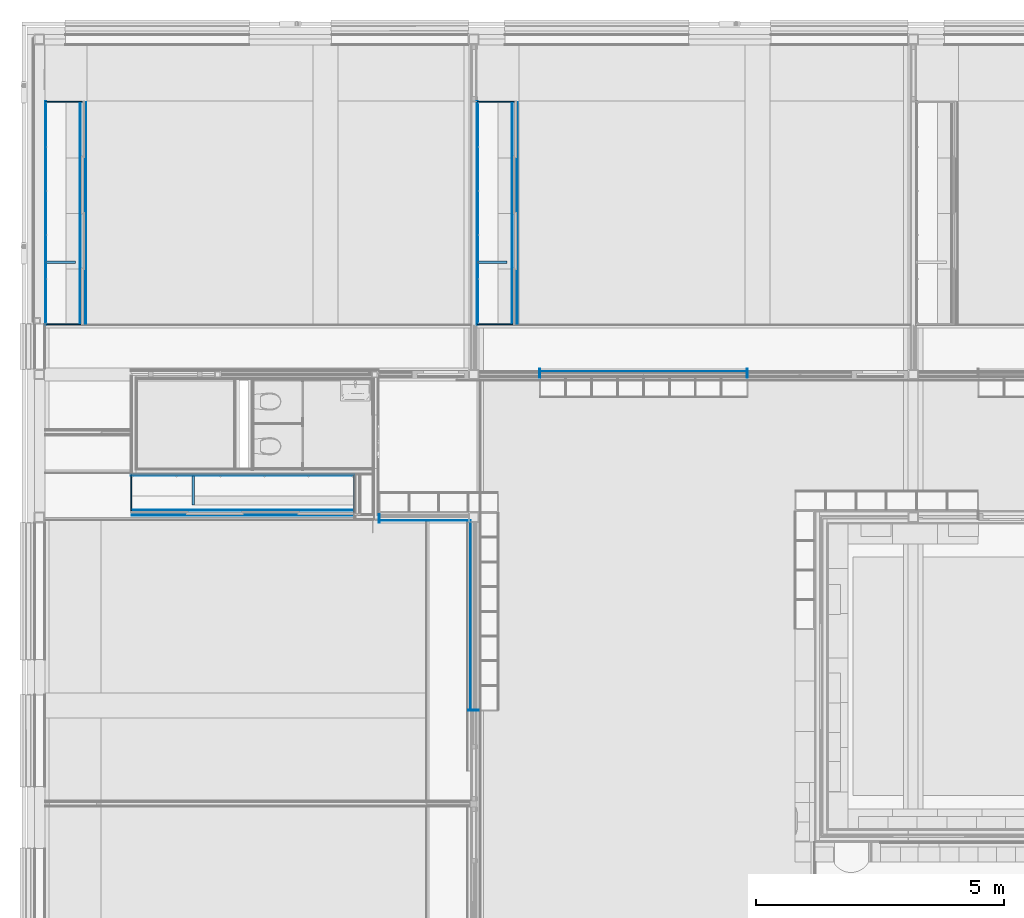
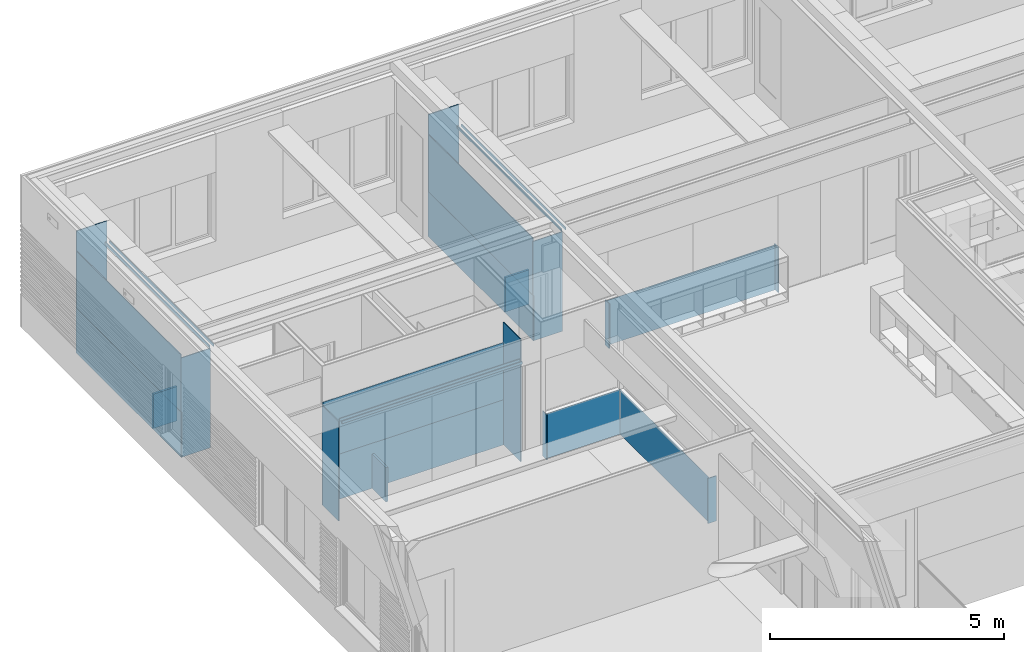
# One storey, part 42 of 137: 28 walls.
"""IFC2X3 building model written with IfcOpenShell, lengths in millimetres."""

from ifc_helpers import new_model, entity, si_unit, converted_unit, derived_unit, money_unit, direction, frame, origin_with_axes, place, context, subcontext, project, spatial, faceted_brep, material, type_object, element, save


model = new_model("IFC2X3")

# Units and contexts
model_context = context("Model", 3, precision=0.01, world=origin_with_axes(), true_north=direction((0.0, 1.0)))
body_context = subcontext(model_context, "Body", "Model", "MODEL_VIEW")
ifc_project = project(units=[si_unit("LENGTHUNIT", "METRE", prefix="MILLI"), si_unit("AREAUNIT", "SQUARE_METRE"), si_unit("VOLUMEUNIT", "CUBIC_METRE"), converted_unit("PLANEANGLEUNIT", "DEGREE", entity("IfcPlaneAngleMeasure", 0.0174532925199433), si_unit("PLANEANGLEUNIT", "RADIAN"), dimensions=[0, 0, 0, 0, 0, 0, 0]), money_unit("EUR"), converted_unit("TIMEUNIT", "Year", entity("IfcTimeMeasure", 31556926.0), si_unit("TIMEUNIT", "SECOND"), dimensions=[0, 0, 1, 0, 0, 0, 0]), si_unit("MASSUNIT", "GRAM", prefix="KILO"), si_unit("THERMODYNAMICTEMPERATUREUNIT", "DEGREE_CELSIUS"), si_unit("LUMINOUSINTENSITYUNIT", "LUMEN"), si_unit("ENERGYUNIT", "JOULE", prefix="MEGA"), derived_unit("THERMALCONDUCTANCEUNIT", [(si_unit("POWERUNIT", "WATT"), 1), (si_unit("LENGTHUNIT", "METRE"), -1), (si_unit("THERMODYNAMICTEMPERATUREUNIT", "KELVIN"), -1)]), derived_unit("SPECIFICHEATCAPACITYUNIT", [(si_unit("ENERGYUNIT", "JOULE"), 1), (si_unit("MASSUNIT", "GRAM", prefix="KILO"), -1), (si_unit("THERMODYNAMICTEMPERATUREUNIT", "KELVIN"), -1)]), derived_unit("MASSDENSITYUNIT", [(si_unit("MASSUNIT", "GRAM", prefix="KILO"), 1), (si_unit("VOLUMEUNIT", "CUBIC_METRE"), -1)])], contexts=[model_context])

# Site, building, storey
site_placement = place(None, origin_with_axes())
site = spatial("IfcSite", under=ifc_project, at=site_placement, Name="Site", CompositionType="ELEMENT")
building_placement = place(site_placement, origin_with_axes())
building = spatial("IfcBuilding", under=site, at=building_placement, Name="Naam gebouw", CompositionType="ELEMENT")
storey_placement = place(building_placement, frame((0.0, 0.0, 3960.0), z_axis=(0.0, 0.0, 1.0), x_axis=(1.0, 0.0, 0.0)))
storey = spatial("IfcBuildingStorey", under=building, at=storey_placement, Name="1e verdieping", CompositionType="ELEMENT", Elevation=3960.0)

# Walls
ifc_material_1 = material(Name="Kurk")
wall_type_1 = type_object("IfcWallType", Name="Kurk 6", PredefinedType="NOTDEFINED")
wall_1_placement = place(storey_placement, frame((6960.000053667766, 19387.49979215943, 0.0), z_axis=(0.0, 0.0, 1.0), x_axis=(1.0, 0.0, 0.0)))
element("IfcWall", 1, at=wall_1_placement, inside=storey, type_object=wall_type_1, material=ifc_material_1, Name="21_Wand-x", context=body_context, shape_type="Brep", body=[
    faceted_brep([(1821.500260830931, -5.999999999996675, 1180.0), (1821.500260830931, 0.0, 1180.0), (0.0, 0.0, 1180.0), (0.0, -6.000000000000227, 1180.0), (1821.500260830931, -5.999999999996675, 0.0), (1821.500260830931, 0.0, 0.0), (0.0, 0.0, 0.0), (0.0, -6.000000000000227, 0.0)], [[[0, 1, 2, 3]], [[1, 0, 4, 5]], [[1, 5, 6, 2]], [[7, 3, 2, 6]], [[4, 0, 3, 7]], [[5, 4, 7, 6]]]),
])
wall_2_placement = place(storey_placement, frame((8787.500314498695, 15569.99580850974, 0.0), z_axis=(0.0, 0.0, 1.0), x_axis=(0.0, 1.0, 0.0)))
element("IfcWall", 2, at=wall_2_placement, inside=storey, type_object=wall_type_1, material=ifc_material_1, Name="21_Wand-x", context=body_context, shape_type="Brep", body=[
    faceted_brep([(3817.503983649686, 6.000000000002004, 0.0), (3817.503983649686, 0.0, 0.0), (0.0, 0.0, 0.0), (0.0, 6.000000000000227, 0.0), (3817.503983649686, 6.000000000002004, 1180.0), (3817.503983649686, 0.0, 1180.0), (0.0, 0.0, 1180.0), (0.0, 6.000000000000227, 1180.0)], [[[0, 1, 2, 3]], [[1, 0, 4, 5]], [[1, 5, 6, 2]], [[7, 3, 2, 6]], [[4, 0, 3, 7]], [[5, 4, 7, 6]]]),
])
wall_3_placement = place(storey_placement, frame((10190.00009530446, 22387.47926947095, 0.0), z_axis=(0.0, 0.0, 1.0), x_axis=(1.0, 0.0, 0.0)))
element("IfcWall", 3, at=wall_3_placement, inside=storey, type_object=wall_type_1, material=ifc_material_1, Name="21_Wand-x", context=body_context, shape_type="Brep", body=[
    faceted_brep([(0.0, 6.000000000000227, 0.0), (4159.999904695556, 6.000000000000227, 0.0), (4159.999904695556, 0.0, 0.0), (0.0, 0.0, 0.0), (0.0, 6.000000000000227, 1180.0), (4159.999904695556, 6.000000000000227, 1180.0), (4159.999904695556, 0.0, 1180.0), (0.0, 0.0, 1180.0)], [[[0, 1, 2, 3]], [[4, 5, 1, 0]], [[2, 1, 5, 6]], [[3, 2, 6, 7]], [[4, 0, 3, 7]], [[7, 6, 5, 4]]]),
])
ifc_material_2 = material(Name="Hout - Multiplex")
wall_type_2 = type_object("IfcWallType", Name="Hout - Multiplex 20", PredefinedType="NOTDEFINED")
wall_4_placement = place(storey_placement, frame((14370.00000000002, 22262.47925041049, 0.0), z_axis=(0.0, 0.0, 1.0), x_axis=(0.0, 1.0, 0.0)))
element("IfcWall", 4, at=wall_4_placement, inside=storey, type_object=wall_type_2, material=ifc_material_2, Name="21_Wand-x", context=body_context, shape_type="Brep", body=[
    faceted_brep([(174.9999999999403, 19.99999999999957, 0.0), (174.9999999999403, 19.99999999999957, 1180.000000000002), (174.9999999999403, 0.0, 1180.000000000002), (174.9999999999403, 0.0, 0.0), (0.0, 19.99999999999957, 0.0), (0.0, 19.99999999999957, 1180.000000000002), (0.0, 0.0, 1180.000000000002), (0.0, 0.0, 0.0)], [[[0, 1, 2, 3]], [[4, 5, 1, 0]], [[5, 6, 2, 1]], [[3, 2, 6, 7]], [[7, 4, 0, 3]], [[7, 6, 5, 4]]]),
])
wall_5_placement = place(storey_placement, frame((6939.999720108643, 19512.49981121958, 0.0), z_axis=(0.0, 0.0, 1.0), x_axis=(1.906052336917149e-06, -0.9999999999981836, 0.0)))
element("IfcWall", 5, at=wall_5_placement, inside=storey, type_object=wall_type_2, material=ifc_material_2, Name="21_Wand-x", context=body_context, shape_type="Brep", body=[
    faceted_brep([(0.0, 0.0, 0.0), (6.359357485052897e-10, 0.0003335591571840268, 1180.000000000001), (0.0, 20.00000000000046, 1180.000000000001), (0.0, 20.00000000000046, 0.0), (174.9999999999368, 0.0, 0.0), (174.9999742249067, 0.0, 1180.000000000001), (175.0000123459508, 19.99999999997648, 1180.000000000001), (174.9999999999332, 19.99999999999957, 0.0)], [[[0, 1, 2, 3]], [[4, 5, 1, 0]], [[5, 6, 2, 1]], [[3, 2, 6, 7]], [[0, 3, 7, 4]], [[7, 6, 5, 4]]]),
])
wall_6_placement = place(storey_placement, frame((10169.99976174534, 22262.48325312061, 0.0), z_axis=(0.0, 0.0, 1.0), x_axis=(1.906052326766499e-06, 0.9999999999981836, 0.0)))
element("IfcWall", 6, at=wall_6_placement, inside=storey, type_object=wall_type_2, material=ifc_material_2, Name="21_Wand-x", context=body_context, shape_type="Brep", body=[
    faceted_brep([(174.9999999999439, 0.0, 0.0), (174.9959972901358, -7.629452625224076e-09, 1180.000000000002), (174.9960354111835, -20.00000000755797, 1180.000000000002), (174.9999999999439, -20.00000000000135, 0.0), (0.0, 0.0, 0.0), (-0.00400270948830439, -0.0003335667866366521, 1180.000000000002), (-0.003964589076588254, -20.00000000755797, 1180.000000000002), (0.0, -20.00000000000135, 0.0)], [[[0, 1, 2, 3]], [[4, 5, 1, 0]], [[5, 6, 2, 1]], [[3, 2, 6, 7]], [[7, 4, 0, 3]], [[7, 6, 5, 4]]]),
])
wall_7_placement = place(storey_placement, frame((8949.999999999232, 15549.99540346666, 0.0), z_axis=(0.0, 0.0, 1.0), x_axis=(-0.9999999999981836, 1.906052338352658e-06, 0.0)))
element("IfcWall", 7, at=wall_7_placement, inside=storey, type_object=wall_type_2, material=ifc_material_2, Name="21_Wand-x", context=body_context, shape_type="Brep", body=[
    faceted_brep([(212.5036691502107, -20.00000000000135, 0.0), (212.4996758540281, -20.00000000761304, 1180.000000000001), (5.925727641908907e-05, -19.99999999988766, 1180.000000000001), (0.0, -20.00000000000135, 0.0), (212.5036691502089, 0.0, 0.0), (212.4996377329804, -7.682743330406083e-09, 1180.000000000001), (2.11370014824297e-05, -0.0004050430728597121, 1180.000000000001), (0.0, 0.0, 0.0)], [[[0, 1, 2, 3]], [[4, 5, 1, 0]], [[5, 6, 2, 1]], [[3, 2, 6, 7]], [[3, 7, 4, 0]], [[7, 6, 5, 4]]]),
])
wall_8_placement = place(storey_placement, frame((9632.500000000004, 23347.99984707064, 0.0), z_axis=(0.0, 0.0, 1.0), x_axis=(-1.0, 0.0, 0.0)))
element("IfcWall", 8, at=wall_8_placement, inside=storey, type_object=wall_type_2, material=ifc_material_2, Name="21_Wand-x", context=body_context, shape_type="Brep", body=[
    faceted_brep([(719.9999999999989, 0.0, 0.0), (719.9999999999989, 0.0, 1.99999999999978), (699.9999999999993, 0.0, 1.99999999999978), (699.9999999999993, 0.0, 1182.0), (719.9999999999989, 0.0, 1182.0), (719.9999999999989, 0.0, 2600.0), (0.0, 0.0, 2600.0), (0.0, 0.0, 0.0), (719.9999999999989, 19.99999999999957, 0.0), (719.9999999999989, 19.99999999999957, 1.99999999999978), (699.9999999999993, 19.99999999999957, 1.99999999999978), (699.9999999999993, 19.99999999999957, 1182.0), (719.9999999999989, 19.99999999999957, 1182.0), (719.9999999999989, 19.99999999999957, 2600.0), (0.0, 19.99999999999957, 2600.0), (0.0, 19.99999999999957, 0.0)], [[[0, 1, 2, 3, 4, 5, 6, 7]], [[8, 9, 1, 0]], [[10, 2, 1, 9]], [[11, 3, 2, 10]], [[12, 4, 3, 11]], [[5, 4, 12, 13]], [[14, 6, 5, 13]], [[7, 6, 14, 15]], [[7, 15, 8, 0]], [[11, 10, 9, 8, 15, 14, 13, 12]]]),
])
wall_9_placement = place(storey_placement, frame((9662.500000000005, 27807.99984707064, 0.0), z_axis=(0.0, 0.0, 1.0), x_axis=(-1.0, 0.0, 0.0)))
element("IfcWall", 9, at=wall_9_placement, inside=storey, type_object=wall_type_2, material=ifc_material_2, Name="21_Wand-x", context=body_context, shape_type="Brep", body=[
    faceted_brep([(750.0, -19.99999999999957, 0.0), (750.0, -19.99999999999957, 1.99999999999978), (730.0000000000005, -19.99999999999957, 1.99999999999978), (730.0000000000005, -19.99999999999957, 1182.0), (750.0, -19.99999999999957, 1182.0), (750.0, -19.99999999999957, 3200.0), (0.0, -19.99999999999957, 3200.0), (0.0, -19.99999999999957, 0.0), (750.0, 0.0, 0.0), (750.0, 0.0, 1.99999999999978), (730.0000000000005, 0.0, 1.99999999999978), (730.0000000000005, 0.0, 1182.0), (750.0, 0.0, 1182.0), (750.0, 0.0, 3200.0), (0.0, 0.0, 3200.0), (0.0, 0.0, 0.0)], [[[0, 1, 2, 3, 4, 5, 6, 7]], [[8, 9, 1, 0]], [[10, 2, 1, 9]], [[11, 3, 2, 10]], [[12, 4, 3, 11]], [[5, 4, 12, 13]], [[14, 6, 5, 13]], [[14, 15, 7, 6]], [[7, 15, 8, 0]], [[11, 10, 9, 8, 15, 14, 13, 12]]]),
])
wall_10_placement = place(storey_placement, frame((8912.500000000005, 23347.99984707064, 1.99999999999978), z_axis=(0.0, 0.0, 1.0), x_axis=(0.0, 1.0, 0.0)))
element("IfcWall", 10, at=wall_10_placement, inside=storey, type_object=wall_type_2, material=ifc_material_2, Name="21_Wand-x", context=body_context, shape_type="Brep", body=[
    faceted_brep([(4480.0, -19.99999999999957, 1180.0), (4480.0, 0.0, 1180.0), (-19.99999999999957, 0.0, 1180.0), (-19.99999999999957, -19.99999999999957, 1180.0), (4480.0, -19.99999999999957, 0.0), (4480.0, 0.0, 0.0), (-19.99999999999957, 0.0, 0.0), (-19.99999999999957, -19.99999999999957, 0.0)], [[[0, 1, 2, 3]], [[1, 0, 4, 5]], [[1, 5, 6, 2]], [[7, 3, 2, 6]], [[4, 0, 3, 7]], [[5, 4, 7, 6]]]),
])
wall_11_placement = place(storey_placement, frame((8914.500000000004, 23347.99984707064, 1182.0), z_axis=(0.0, 0.0, 1.0), x_axis=(0.0, 1.0, 0.0)))
element("IfcWall", 11, at=wall_11_placement, inside=storey, type_object=wall_type_2, material=ifc_material_2, Name="21_Wand-x", context=body_context, shape_type="Brep", body=[
    faceted_brep([(0.0, 0.0, 1488.0), (0.0, 0.0, 1418.000000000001), (0.0, -19.99999999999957, 1418.000000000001), (0.0, -19.99999999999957, 1488.0), (4460.000000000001, 0.0, 0.0), (0.0, 0.0, 0.0), (4460.000000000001, 0.0, 1488.0), (0.0, -19.99999999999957, 0.0), (4460.000000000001, -19.99999999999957, 0.0), (4460.000000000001, -19.99999999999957, 1488.0)], [[[0, 1, 2, 3]], [[4, 5, 1, 0, 6]], [[5, 7, 2, 1]], [[3, 2, 7, 8, 9]], [[9, 6, 0, 3]], [[8, 7, 5, 4]], [[6, 9, 8, 4]]]),
])
wall_12_placement = place(storey_placement, frame((9719.500000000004, 23347.99984707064, 2600.0), z_axis=(0.0, 0.0, 1.0), x_axis=(0.0, 1.0, 0.0)))
element("IfcWall", 12, at=wall_12_placement, inside=storey, type_object=wall_type_2, material=ifc_material_2, Name="21_Wand-x", context=body_context, shape_type="Brep", body=[
    faceted_brep([(0.0, -19.99999999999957, 69.9999999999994), (4460.000000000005, -19.99999999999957, 69.9999999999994), (4460.000000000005, 0.0, 69.9999999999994), (0.0, 0.0, 69.9999999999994), (0.0, -19.99999999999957, 0.0), (4460.000000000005, -19.99999999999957, 0.0), (4460.000000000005, 0.0, 0.0), (0.0, 0.0, 0.0)], [[[0, 1, 2, 3]], [[4, 5, 1, 0]], [[2, 1, 5, 6]], [[3, 2, 6, 7]], [[4, 0, 3, 7]], [[7, 6, 5, 4]]]),
])
wall_13_placement = place(storey_placement, frame((9614.500000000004, 23347.99984707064, 2600.0), z_axis=(0.0, 0.0, 1.0), x_axis=(0.0, 1.0, 0.0)))
element("IfcWall", 13, at=wall_13_placement, inside=storey, type_object=wall_type_2, material=ifc_material_2, Name="21_Wand-x", context=body_context, shape_type="Brep", body=[
    faceted_brep([(4460.000000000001, -19.99999999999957, 69.9999999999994), (4460.000000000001, 0.0, 69.9999999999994), (0.0, 0.0, 69.9999999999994), (0.0, -19.99999999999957, 69.9999999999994), (4460.000000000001, -19.99999999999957, 0.0), (4460.000000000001, 0.0, 0.0), (0.0, 0.0, 0.0), (0.0, -19.99999999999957, 0.0)], [[[0, 1, 2, 3]], [[1, 0, 4, 5]], [[1, 5, 6, 2]], [[7, 3, 2, 6]], [[4, 0, 3, 7]], [[5, 4, 7, 6]]]),
])
wall_14_placement = place(storey_placement, frame((934.000000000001, 23347.99984707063, 0.0), z_axis=(0.0, 0.0, 1.0), x_axis=(-1.0, 0.0, 0.0)))
element("IfcWall", 14, at=wall_14_placement, inside=storey, type_object=wall_type_2, material=ifc_material_2, Name="21_Wand-x", context=body_context, shape_type="Brep", body=[
    faceted_brep([(719.9999999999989, 0.0, 0.0), (719.9999999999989, 0.0, 1.99999999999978), (699.9999999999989, 0.0, 1.99999999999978), (699.999999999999, 0.0, 1182.0), (719.999999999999, 0.0, 1182.0), (719.9999999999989, 0.0, 2600.0), (0.0, 0.0, 2600.0), (0.0, 0.0, 0.0), (719.9999999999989, 19.99999999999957, 0.0), (719.9999999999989, 19.99999999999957, 1.99999999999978), (699.9999999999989, 19.99999999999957, 1.99999999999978), (699.999999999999, 19.99999999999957, 1182.0), (719.999999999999, 19.99999999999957, 1182.0), (719.9999999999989, 19.99999999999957, 2600.0), (0.0, 19.99999999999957, 2600.0), (0.0, 19.99999999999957, 0.0)], [[[0, 1, 2, 3, 4, 5, 6, 7]], [[8, 9, 1, 0]], [[10, 2, 1, 9]], [[11, 3, 2, 10]], [[12, 4, 3, 11]], [[5, 4, 12, 13]], [[14, 6, 5, 13]], [[7, 6, 14, 15]], [[7, 15, 8, 0]], [[11, 10, 9, 8, 15, 14, 13, 12]]]),
])
wall_15_placement = place(storey_placement, frame((214.0000000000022, 23347.99984707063, 1.99999999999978), z_axis=(0.0, 0.0, 1.0), x_axis=(0.0, 1.0, 0.0)))
element("IfcWall", 15, at=wall_15_placement, inside=storey, type_object=wall_type_2, material=ifc_material_2, Name="21_Wand-x", context=body_context, shape_type="Brep", body=[
    faceted_brep([(4480.0, -19.99999999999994, 1180.0), (4480.0, 0.0, 1180.0), (-19.99999999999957, 0.0, 1180.0), (-19.99999999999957, -19.99999999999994, 1180.0), (4480.0, -19.99999999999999, 0.0), (4480.0, 0.0, 0.0), (-19.99999999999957, 0.0, 0.0), (-19.99999999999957, -19.99999999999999, 0.0)], [[[0, 1, 2, 3]], [[1, 0, 4, 5]], [[1, 5, 6, 2]], [[7, 3, 2, 6]], [[4, 0, 3, 7]], [[5, 4, 7, 6]]]),
])
wall_16_placement = place(storey_placement, frame((964.0000000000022, 27807.99984707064, 0.0), z_axis=(0.0, 0.0, 1.0), x_axis=(-1.0, 0.0, 0.0)))
element("IfcWall", 16, at=wall_16_placement, inside=storey, type_object=wall_type_2, material=ifc_material_2, Name="21_Wand-x", context=body_context, shape_type="Brep", body=[
    faceted_brep([(750.0, -19.99999999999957, 0.0), (750.0, -19.99999999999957, 1.99999999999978), (730.0, -19.99999999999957, 1.99999999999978), (730.0000000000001, -19.99999999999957, 1182.0), (750.0000000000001, -19.99999999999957, 1182.0), (750.0, -19.99999999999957, 3200.0), (0.0, -19.99999999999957, 3200.0), (0.0, -19.99999999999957, 0.0), (750.0, 0.0, 0.0), (750.0, 0.0, 1.99999999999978), (730.0, 0.0, 1.99999999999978), (730.0000000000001, 0.0, 1182.0), (750.0000000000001, 0.0, 1182.0), (750.0, 0.0, 3200.0), (0.0, 0.0, 3200.0), (0.0, 0.0, 0.0)], [[[0, 1, 2, 3, 4, 5, 6, 7]], [[8, 9, 1, 0]], [[10, 2, 1, 9]], [[11, 3, 2, 10]], [[12, 4, 3, 11]], [[5, 4, 12, 13]], [[14, 6, 5, 13]], [[14, 15, 7, 6]], [[7, 15, 8, 0]], [[11, 10, 9, 8, 15, 14, 13, 12]]]),
])
wall_17_placement = place(storey_placement, frame((916.0000000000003, 23347.99984707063, 2600.0), z_axis=(0.0, 0.0, 1.0), x_axis=(0.0, 1.0, 0.0)))
element("IfcWall", 17, at=wall_17_placement, inside=storey, type_object=wall_type_2, material=ifc_material_2, Name="21_Wand-x", context=body_context, shape_type="Brep", body=[
    faceted_brep([(4460.000000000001, -20.00000000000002, 69.9999999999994), (4460.000000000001, 0.0, 69.9999999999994), (0.0, 0.0, 69.9999999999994), (0.0, -20.00000000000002, 69.9999999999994), (4460.000000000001, -20.00000000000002, 0.0), (4460.000000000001, 0.0, 0.0), (0.0, 0.0, 0.0), (0.0, -20.00000000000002, 0.0)], [[[0, 1, 2, 3]], [[1, 0, 4, 5]], [[1, 5, 6, 2]], [[7, 3, 2, 6]], [[4, 0, 3, 7]], [[5, 4, 7, 6]]]),
])
wall_18_placement = place(storey_placement, frame((1964.000000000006, 19584.97621406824, 0.0), z_axis=(0.0, 0.0, 1.0), x_axis=(0.0, 1.0, 0.0)))
element("IfcWall", 18, at=wall_18_placement, inside=storey, type_object=wall_type_2, material=ifc_material_2, Name="21_Wand-x", context=body_context, shape_type="Brep", body=[
    faceted_brep([(719.9999999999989, 0.0, 1.99999999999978), (699.9999999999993, 0.0, 1.99999999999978), (699.9999999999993, 0.0, 1182.0), (719.9999999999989, 0.0, 1182.0), (719.9999999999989, 0.0, 2600.0), (0.0, 0.0, 2600.0), (0.0, 0.0, 0.0), (719.9999999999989, 0.0, 0.0), (699.9999999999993, 20.00000000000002, 1.99999999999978), (719.9999999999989, 20.00000000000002, 1.99999999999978), (699.9999999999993, 20.00000000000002, 1182.0), (719.9999999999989, 20.00000000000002, 1182.0), (719.9999999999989, 20.00000000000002, 2600.0), (0.0, 20.00000000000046, 2600.0), (0.0, 20.00000000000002, 0.0), (719.9999999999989, 20.00000000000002, 0.0)], [[[0, 1, 2, 3, 4, 5, 6, 7]], [[8, 1, 0, 9]], [[10, 2, 1, 8]], [[10, 11, 3, 2]], [[4, 3, 11, 12]], [[13, 5, 4, 12]], [[6, 5, 13, 14]], [[6, 14, 15, 7]], [[15, 9, 0, 7]], [[10, 8, 9, 15, 14, 13, 12, 11]]]),
])
wall_19_placement = place(storey_placement, frame((216.0000000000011, 23347.99984707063, 1182.0), z_axis=(0.0, 0.0, 1.0), x_axis=(0.0, 1.0, 0.0)))
element("IfcWall", 19, at=wall_19_placement, inside=storey, type_object=wall_type_2, material=ifc_material_2, Name="21_Wand-x", context=body_context, shape_type="Brep", body=[
    faceted_brep([(0.0, 0.0, 1488.0), (0.0, 0.0, 1418.000000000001), (0.0, -20.00000000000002, 1418.000000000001), (0.0, -20.00000000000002, 1488.0), (4460.000000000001, 0.0, 0.0), (0.0, 0.0, 0.0), (4460.000000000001, 0.0, 1488.0), (0.0, -20.00000000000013, 0.0), (4460.000000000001, -20.00000000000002, 0.0), (4460.000000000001, -19.99999999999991, 1488.0)], [[[0, 1, 2, 3]], [[4, 5, 1, 0, 6]], [[5, 7, 2, 1]], [[3, 2, 7, 8, 9]], [[9, 6, 0, 3]], [[8, 7, 5, 4]], [[6, 9, 8, 4]]]),
])
wall_20_placement = place(storey_placement, frame((1964.000000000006, 20302.97621406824, 1182.0), z_axis=(0.0, 0.0, 1.0), x_axis=(1.0, 0.0, 0.0)))
element("IfcWall", 20, at=wall_20_placement, inside=storey, type_object=wall_type_2, material=ifc_material_2, Name="21_Wand-x", context=body_context, shape_type="Brep", body=[
    faceted_brep([(4460.000000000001, 0.0, 0.0), (0.0, 0.0, 0.0), (0.0, 0.0, 1418.000000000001), (0.0, 0.0, 1488.0), (4460.000000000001, 0.0, 1488.0), (4460.000000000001, -19.99999999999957, 0.0), (0.0, -19.99999999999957, 0.0), (0.0, -19.99999999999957, 1418.000000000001), (0.0, -19.99999999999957, 1488.0), (4460.000000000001, -19.99999999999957, 1488.0)], [[[0, 1, 2, 3, 4]], [[5, 6, 1, 0]], [[6, 7, 2, 1]], [[3, 2, 7, 8]], [[9, 4, 3, 8]], [[5, 0, 4, 9]], [[8, 7, 6, 5, 9]]]),
])
wall_21_placement = place(storey_placement, frame((6424.000000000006, 19554.97621406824, 0.0), z_axis=(0.0, 0.0, 1.0), x_axis=(0.0, 1.0, 0.0)))
element("IfcWall", 21, at=wall_21_placement, inside=storey, type_object=wall_type_2, material=ifc_material_2, Name="21_Wand-x", context=body_context, shape_type="Brep", body=[
    faceted_brep([(750.0, -19.99999999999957, 1.99999999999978), (730.0000000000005, -19.99999999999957, 1.99999999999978), (730.0000000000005, -19.99999999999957, 1182.0), (750.0, -19.99999999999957, 1182.0), (750.0, -19.99999999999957, 3200.0), (0.0, -19.99999999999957, 3200.0), (0.0, -19.99999999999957, 0.0), (750.0, -19.99999999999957, 0.0), (730.0000000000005, 0.0, 1.99999999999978), (750.0, 0.0, 1.99999999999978), (730.0000000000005, 0.0, 1182.0), (750.0, 0.0, 1182.0), (750.0, 0.0, 3200.0), (0.0, 0.0, 3200.0), (0.0, 0.0, 0.0), (750.0, 0.0, 0.0)], [[[0, 1, 2, 3, 4, 5, 6, 7]], [[8, 1, 0, 9]], [[10, 2, 1, 8]], [[10, 11, 3, 2]], [[4, 3, 11, 12]], [[13, 5, 4, 12]], [[13, 14, 6, 5]], [[6, 14, 15, 7]], [[15, 9, 0, 7]], [[10, 8, 9, 15, 14, 13, 12, 11]]]),
])
wall_22_placement = place(storey_placement, frame((1964.000000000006, 20304.97621406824, 1.99999999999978), z_axis=(0.0, 0.0, 1.0), x_axis=(1.0, 0.0, 0.0)))
element("IfcWall", 22, at=wall_22_placement, inside=storey, type_object=wall_type_2, material=ifc_material_2, Name="21_Wand-x", context=body_context, shape_type="Brep", body=[
    faceted_brep([(4480.0, -19.99999999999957, 1180.0), (4480.0, 0.0, 1180.0), (-20.00000000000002, 0.0, 1180.0), (-20.00000000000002, -19.99999999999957, 1180.0), (4480.0, -19.99999999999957, 0.0), (4480.0, 0.0, 0.0), (-20.00000000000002, 0.0, 0.0), (-20.00000000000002, -19.99999999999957, 0.0)], [[[0, 1, 2, 3]], [[1, 0, 4, 5]], [[1, 5, 6, 2]], [[7, 3, 2, 6]], [[4, 0, 3, 7]], [[5, 4, 7, 6]]]),
])
wall_23_placement = place(storey_placement, frame((1964.000000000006, 19602.97621406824, 2600.0), z_axis=(0.0, 0.0, 1.0), x_axis=(1.0, 0.0, 0.0)))
element("IfcWall", 23, at=wall_23_placement, inside=storey, type_object=wall_type_2, material=ifc_material_2, Name="21_Wand-x", context=body_context, shape_type="Brep", body=[
    faceted_brep([(4460.000000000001, -19.99999999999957, 69.9999999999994), (4460.000000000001, 0.0, 69.9999999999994), (0.0, 0.0, 69.9999999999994), (0.0, -19.99999999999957, 69.9999999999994), (4460.000000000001, -19.99999999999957, 0.0), (4460.000000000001, 0.0, 0.0), (0.0, 0.0, 0.0), (0.0, -19.99999999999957, 0.0)], [[[0, 1, 2, 3]], [[1, 0, 4, 5]], [[1, 5, 6, 2]], [[7, 3, 2, 6]], [[4, 0, 3, 7]], [[5, 4, 7, 6]]]),
])
wall_24_placement = place(storey_placement, frame((1964.000000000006, 19497.97621406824, 2600.0), z_axis=(0.0, 0.0, 1.0), x_axis=(1.0, 0.0, 0.0)))
element("IfcWall", 24, at=wall_24_placement, inside=storey, type_object=wall_type_2, material=ifc_material_2, Name="21_Wand-x", context=body_context, shape_type="Brep", body=[
    faceted_brep([(0.0, -19.99999999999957, 69.9999999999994), (4460.000000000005, -19.99999999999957, 69.9999999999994), (4460.000000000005, 0.0, 69.9999999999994), (0.0, 0.0, 69.9999999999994), (0.0, -19.99999999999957, 0.0), (4460.000000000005, -19.99999999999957, 0.0), (4460.000000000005, 0.0, 0.0), (0.0, 0.0, 0.0)], [[[0, 1, 2, 3]], [[4, 5, 1, 0]], [[2, 1, 5, 6]], [[3, 2, 6, 7]], [[4, 0, 3, 7]], [[7, 6, 5, 4]]]),
])
wall_25_placement = place(storey_placement, frame((1021.000000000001, 23347.99984707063, 2600.0), z_axis=(0.0, 0.0, 1.0), x_axis=(0.0, 1.0, 0.0)))
element("IfcWall", 25, at=wall_25_placement, inside=storey, type_object=wall_type_2, material=ifc_material_2, Name="21_Wand-x", context=body_context, shape_type="Brep", body=[
    faceted_brep([(0.0, -20.00000000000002, 69.9999999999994), (4460.000000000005, -20.00000000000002, 69.9999999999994), (4460.000000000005, 0.0, 69.9999999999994), (0.0, 0.0, 69.9999999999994), (0.0, -20.00000000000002, 0.0), (4460.000000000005, -20.00000000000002, 0.0), (4460.000000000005, 0.0, 0.0), (0.0, 0.0, 0.0)], [[[0, 1, 2, 3]], [[4, 5, 1, 0]], [[2, 1, 5, 6]], [[3, 2, 6, 7]], [[4, 0, 3, 7]], [[7, 6, 5, 4]]]),
])
wall_type_3 = type_object("IfcWallType", Name="Hout - Multiplex 50", PredefinedType="NOTDEFINED")
wall_26_placement = place(storey_placement, frame((9523.500000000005, 24607.99984707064, 0.0), z_axis=(0.0, 0.0, 1.0), x_axis=(-1.0, 0.0, 0.0)))
element("IfcWall", 26, at=wall_26_placement, inside=storey, type_object=wall_type_3, material=ifc_material_2, Name="21_Wand-x", context=body_context, shape_type="Brep", body=[
    faceted_brep([(611.0000000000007, 0.0, 0.0), (611.0000000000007, 0.0, 1.99999999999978), (591.0000000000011, 0.0, 1.99999999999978), (591.0000000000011, 0.0, 900.0000000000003), (0.0, 0.0, 900.0000000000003), (0.0, 0.0, 0.0), (611.0000000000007, 50.00000000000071, 0.0), (611.0000000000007, 50.00000000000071, 1.99999999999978), (591.0000000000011, 50.00000000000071, 1.99999999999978), (591.0000000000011, 50.00000000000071, 900.0000000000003), (0.0, 50.00000000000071, 900.0000000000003), (0.0, 50.00000000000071, 0.0)], [[[0, 1, 2, 3, 4, 5]], [[6, 7, 1, 0]], [[8, 2, 1, 7]], [[8, 9, 3, 2]], [[4, 3, 9, 10]], [[5, 4, 10, 11]], [[5, 11, 6, 0]], [[9, 8, 7, 6, 11, 10]]]),
])
wall_27_placement = place(storey_placement, frame((825.0000000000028, 24607.99984707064, 0.0), z_axis=(0.0, 0.0, 1.0), x_axis=(-1.0, 0.0, 0.0)))
element("IfcWall", 27, at=wall_27_placement, inside=storey, type_object=wall_type_3, material=ifc_material_2, Name="21_Wand-x", context=body_context, shape_type="Brep", body=[
    faceted_brep([(611.0000000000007, 0.0, 0.0), (611.0000000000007, 0.0, 1.99999999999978), (591.0000000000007, 0.0, 1.99999999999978), (591.0000000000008, 0.0, 900.0000000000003), (0.0, 0.0, 900.0000000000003), (0.0, 0.0, 0.0), (611.0000000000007, 50.00000000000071, 0.0), (611.0000000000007, 50.00000000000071, 1.99999999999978), (591.0000000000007, 50.00000000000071, 1.99999999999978), (591.0000000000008, 50.00000000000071, 900.0000000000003), (0.0, 50.00000000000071, 900.0000000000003), (0.0, 50.00000000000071, 0.0)], [[[0, 1, 2, 3, 4, 5]], [[6, 7, 1, 0]], [[8, 2, 1, 7]], [[8, 9, 3, 2]], [[4, 3, 9, 10]], [[5, 4, 10, 11]], [[5, 11, 6, 0]], [[9, 8, 7, 6, 11, 10]]]),
])
wall_28_placement = place(storey_placement, frame((3224.000000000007, 19693.97621406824, 0.0), z_axis=(0.0, 0.0, 1.0), x_axis=(0.0, 1.0, 0.0)))
element("IfcWall", 28, at=wall_28_placement, inside=storey, type_object=wall_type_3, material=ifc_material_2, Name="21_Wand-x", context=body_context, shape_type="Brep", body=[
    faceted_brep([(611.0000000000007, 49.99999999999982, 0.0), (611.0000000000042, 49.99999999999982, 1.99999999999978), (611.0000000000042, 0.0, 1.99999999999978), (611.0000000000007, 0.0, 0.0), (591.0000000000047, 50.00000000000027, 900.0000000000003), (591.0000000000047, 50.00000000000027, 1.99999999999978), (0.0, 49.99999999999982, 0.0), (0.0, 50.00000000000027, 900.0000000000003), (591.0000000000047, 0.0, 1.99999999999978), (591.0000000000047, 0.0, 900.0000000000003), (0.0, 0.0, 900.0000000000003), (0.0, 0.0, 0.0)], [[[0, 1, 2, 3]], [[4, 5, 1, 0, 6, 7]], [[5, 8, 2, 1]], [[2, 8, 9, 10, 11, 3]], [[11, 6, 0, 3]], [[5, 4, 9, 8]], [[11, 10, 7, 6]], [[10, 9, 4, 7]]]),
])

save(model, "model.ifc")
